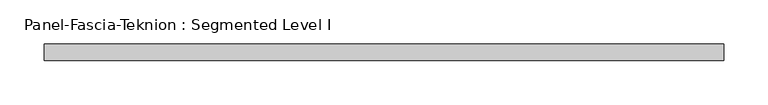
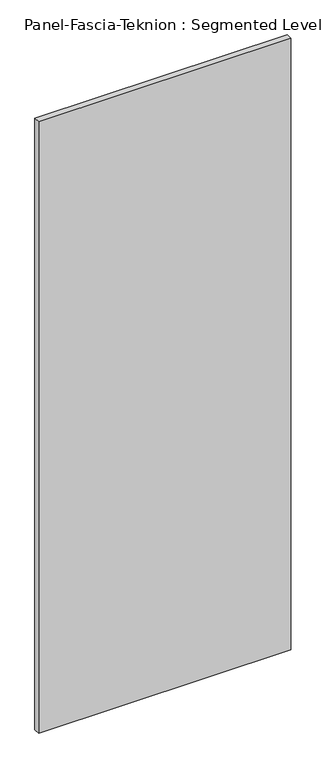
"""IFC4 building model written with IfcOpenShell, lengths in millimetres: proxy geometry, Panel-Fascia-Teknion : Segmented Level I."""

from ifc_helpers import new_model, si_unit, frame, origin, place, context, project, spatial, polyline, outline, extrude, source, transform, mapped, element, save


def panel_fascia_teknion_segmented_level_i_db7779ad(model_context):
    return source(origin(), model_context, "Body", "SweptSolid", [
        extrude(outline(polyline([(385.4152344, 9.525), (385.4152344, -9.525), (-385.4152344, -9.525), (-385.4152344, 9.525), (385.4152344, 9.525)])), frame((0.0, 0.0, 3.175), z_axis=(0.0, 0.0, 1.0), x_axis=(1.0, 0.0, 0.0)), (0.0, 0.0, 1.0), 1974.85),
    ])


if __name__ == "__main__":
    model = new_model("IFC4")
    model_context = context("Model", 3, world=origin())
    ifc_project = project(units=[si_unit("LENGTHUNIT", "METRE", prefix="MILLI")], contexts=[model_context])
    site = spatial("IfcSite", under=ifc_project)
    building = spatial("IfcBuilding", under=site)
    placement = place(None, origin())
    panel_fascia_teknion_segmented_level_i_shape = panel_fascia_teknion_segmented_level_i_db7779ad(model_context)
    element("IfcBuildingElementProxy", 1, Name="Panel-Fascia-Teknion : Segmented Level I", ObjectType="Panel-Fascia-Teknion : Segmented Level I", at=placement, inside=building, context=model_context, shape_type="MappedRepresentation", body=[
        mapped(panel_fascia_teknion_segmented_level_i_shape, transform((0.0, 0.0, 0.0), x_axis=(1.0, 0.0, 0.0), y_axis=(0.0, 1.0, 0.0), z_axis=(0.0, 0.0, 1.0))),
    ])
    save(model, "model.ifc")
